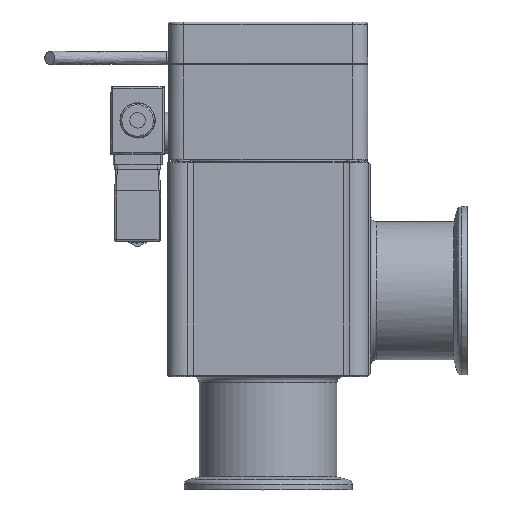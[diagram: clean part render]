
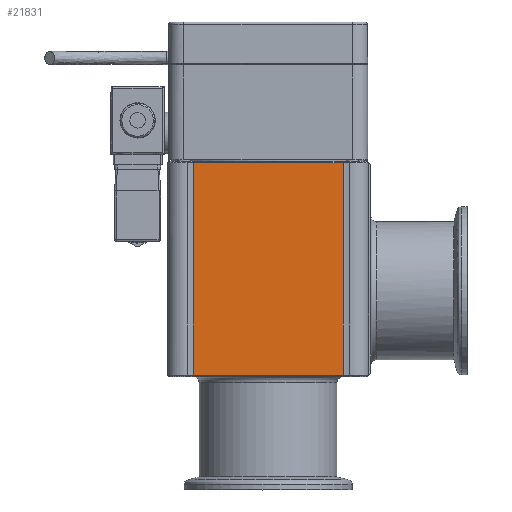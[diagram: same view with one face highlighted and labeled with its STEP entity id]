
A CAD part, top view. The second image highlights one B-rep face of the part: STEP entity #21831.
In plain terms, the highlighted free-form (B-spline) face has degree [1, 1] with [2, 2] control points.
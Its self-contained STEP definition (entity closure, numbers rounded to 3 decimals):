
#21555=CARTESIAN_POINT('V97',(-24.485,
   103.8,32.5));
#21556=VERTEX_POINT('V97',#21555);
#21599=CARTESIAN_POINT('V96',(24.485,103.8,
   32.5));
#21600=VERTEX_POINT('V96',#21599);
#21606=CARTESIAN_POINT('E128',(24.485,
   103.8,32.5));
#21607=CARTESIAN_POINT('E128',(-24.485,
   103.8,32.5));
#21608=B_SPLINE_CURVE_WITH_KNOTS('E128',1,(#21606,#21607),
   .POLYLINE_FORM.,.F.,.U.,(2,2),(2.0,88.568),
   .UNSPECIFIED.);
#21609=EDGE_CURVE('E128',#21600,#21556,#21608,.T.);
#21785=CARTESIAN_POINT('V95',(24.485,34.4,
   32.5));
#21786=VERTEX_POINT('V95',#21785);
#21800=CARTESIAN_POINT('E127',(24.485,34.4,
   32.5));
#21801=CARTESIAN_POINT('E127',(24.485,
   103.8,32.5));
#21802=B_SPLINE_CURVE_WITH_KNOTS('E127',1,(#21800,#21801),
   .POLYLINE_FORM.,.F.,.U.,(2,2),(2.202,
   37.19),.UNSPECIFIED.);
#21803=EDGE_CURVE('E127',#21786,#21600,#21802,.T.);
#21810=CARTESIAN_POINT('F42',(-25.742,33.,
   32.5));
#21811=CARTESIAN_POINT('F42',(25.742,33.,
   32.5));
#21812=CARTESIAN_POINT('F42',(-25.742,
   107.7,32.5));
#21813=CARTESIAN_POINT('F42',(25.742,107.7,
   32.5));
#21814=B_SPLINE_SURFACE_WITH_KNOTS('F42',1,1,((#21810,#21812),(
   #21811,#21813)),.PLANE_SURF.,.F.,.F.,.U.,(2,2),(2,2),(0.0,1.0),
   (0.699,2.15),.UNSPECIFIED.);
#21815=CARTESIAN_POINT('V94',(-24.485,34.4,
   32.5));
#21816=VERTEX_POINT('V94',#21815);
#21817=CARTESIAN_POINT('E126',(-24.485,
   34.4,32.5));
#21818=CARTESIAN_POINT('E126',(24.485,34.4,
   32.5));
#21819=B_SPLINE_CURVE_WITH_KNOTS('E126',1,(#21817,#21818),
   .POLYLINE_FORM.,.F.,.U.,(2,2),(2.0,88.568),
   .UNSPECIFIED.);
#21820=EDGE_CURVE('E126',#21816,#21786,#21819,.T.);
#21821=ORIENTED_EDGE('E126',*,*,#21820,.F.);
#21822=CARTESIAN_POINT('E129',(-24.485,
   103.8,32.5));
#21823=CARTESIAN_POINT('E129',(-24.485,
   34.4,32.5));
#21824=B_SPLINE_CURVE_WITH_KNOTS('E129',1,(#21822,#21823),
   .POLYLINE_FORM.,.F.,.U.,(2,2),(2.202,
   37.19),.UNSPECIFIED.);
#21825=EDGE_CURVE('E129',#21556,#21816,#21824,.T.);
#21826=ORIENTED_EDGE('E129',*,*,#21825,.F.);
#21827=ORIENTED_EDGE('E128',*,*,#21609,.F.);
#21828=ORIENTED_EDGE('E127',*,*,#21803,.F.);
#21829=EDGE_LOOP('F42',(#21821,#21826,#21827,#21828));
#21830=FACE_OUTER_BOUND('F42',#21829,.F.);
#21831=ADVANCED_FACE('F42',(#21830),#21814,.T.);
